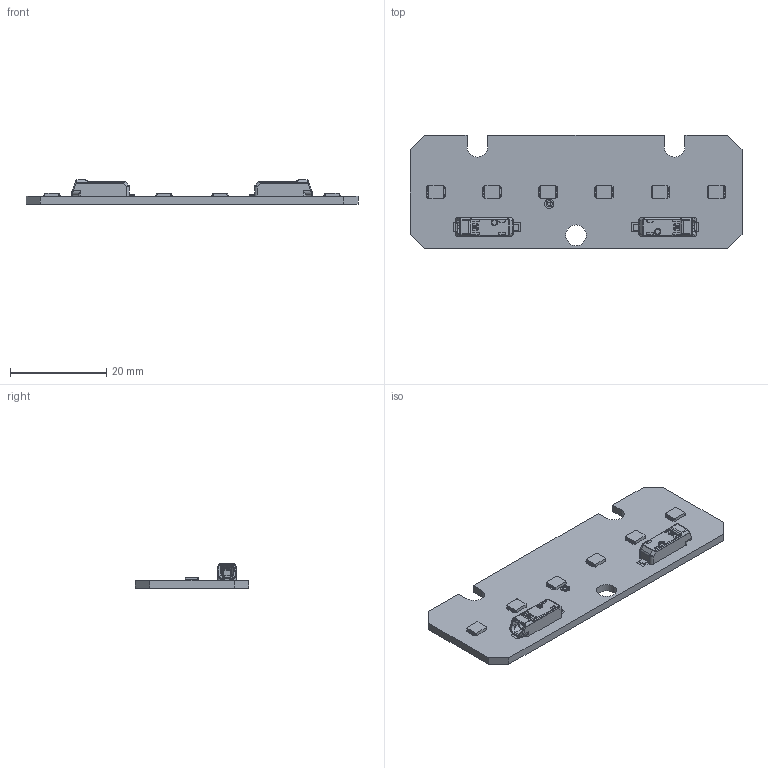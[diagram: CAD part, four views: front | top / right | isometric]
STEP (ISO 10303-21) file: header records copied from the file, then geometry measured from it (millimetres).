
FILE_DESCRIPTION((''),'2;1');
FILE_NAME('16212205_LLE-G6-24X70-325LM','2022-11-29T13:51:17',('Bernhard.Fink'),(''),'CREO PARAMETRIC BY PTC INC, 2021184','CREO PARAMETRIC BY PTC INC, 2021184','');
FILE_SCHEMA(('CONFIG_CONTROL_DESIGN'));
Products named in the file (1): 16212205_LLE-G6-24X70-325LM
Bounding box: 69 x 23.6 x 5.1 mm (x, y, z)
Volume: 2610.2 mm3; surface area: 3988.6 mm2
Topology: 1 solids, 11 shells, 789 faces, 2250 edges, 1468 vertices
Faces by surface type: plane 411, cylinder 202, bspline 102, cone 34, torus 20, sphere 20
Entity records: 58994 total; most frequent: CARTESIAN_POINT 40083, ORIENTED_EDGE 4216, DIRECTION 3264, EDGE_CURVE 2242, VERTEX_POINT 1466, VECTOR 1360, LINE 1360, AXIS2_PLACEMENT_3D 952
